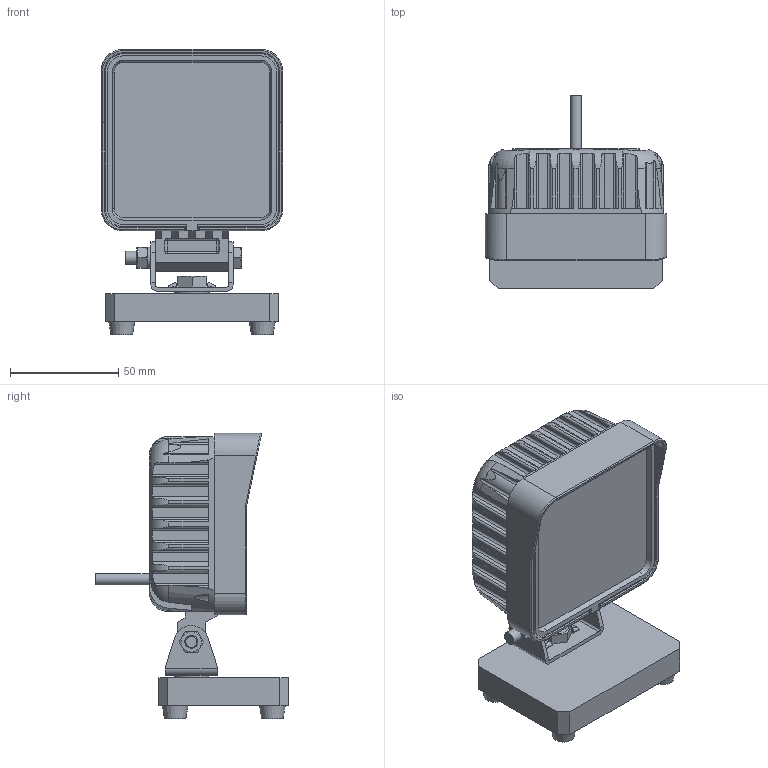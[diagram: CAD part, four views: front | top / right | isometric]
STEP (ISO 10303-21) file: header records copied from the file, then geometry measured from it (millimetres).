
FILE_DESCRIPTION(('STEP AP214'),'1');
FILE_NAME('SCH-NE48W.stp','2026-05-29T06:08:54',(' '),(' '),'Spatial InterOp 3D',' ',' ');
FILE_SCHEMA(('AUTOMOTIVE_DESIGN { 1 0 10303 214 1 1 1 1 }'));
Length unit declared in the file: metre
Products named in the file (2): SCH-NE48W; Component1
Assembly tree (1 placements, depth 2):
  SCH-NE48W
    Component1
Bounding box: 84 x 89.4 x 132 mm (x, y, z)
Volume: 284359.1 mm3; surface area: 78131.5 mm2
Topology: 1 solids, 6 shells, 600 faces, 1610 edges, 1049 vertices
Faces by surface type: plane 322, cylinder 224, cone 17, torus 17, bspline 16, sphere 4
Full cylindrical faces by diameter (mm): 3 x4, 5.2 x1, 6 x3, 6.5 x1, 7.2 x1, 8 x2, 8.5 x1, 9 x1, 9.8 x1, 12.7 x1, 16 x2, 16.8 x1, 18.3 x1, 22 x1
Entity records: 25228 total; most frequent: CARTESIAN_POINT 5592, ORIENTED_EDGE 3114, DIRECTION 3026, EDGE_CURVE 1557, AXIS2_PLACEMENT_3D 1073, VERTEX_POINT 1037, LINE 880, VECTOR 880
